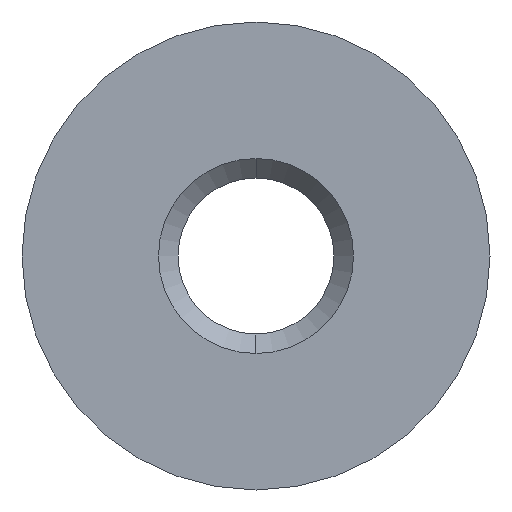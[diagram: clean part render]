
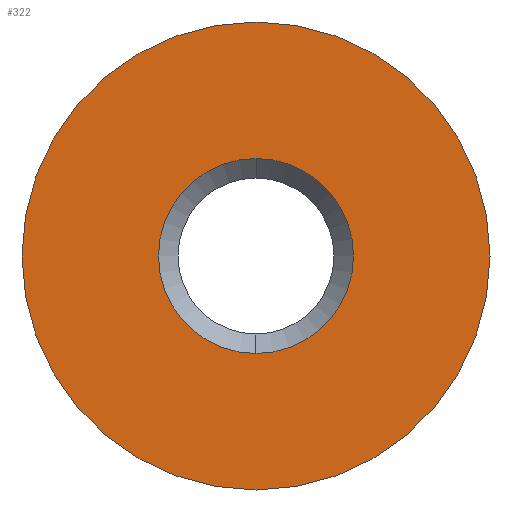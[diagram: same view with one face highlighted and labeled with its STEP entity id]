
A CAD part, left-side view. The second image highlights one B-rep face of the part: STEP entity #322.
In plain terms, the highlighted planar face has unit normal (-1, 0, 0).
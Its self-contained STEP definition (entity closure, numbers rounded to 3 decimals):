
#1 = ORIENTED_EDGE ( 'NONE', *, *, #465, .T. ) ;
#26 = FACE_BOUND ( 'NONE', #799, .T. ) ;
#30 = EDGE_CURVE ( 'NONE', #714, #199, #430, .T. ) ;
#37 = ORIENTED_EDGE ( 'NONE', *, *, #30, .T. ) ;
#54 = CARTESIAN_POINT ( 'NONE',  ( -2.46, 0., 0. ) ) ;
#75 = AXIS2_PLACEMENT_3D ( 'NONE', #54, #304, #368 ) ;
#96 = ORIENTED_EDGE ( 'NONE', *, *, #723, .T. ) ;
#123 = EDGE_CURVE ( 'NONE', #228, #445, #377, .T. ) ;
#124 = CARTESIAN_POINT ( 'NONE',  ( -2.46, 0., 0. ) ) ;
#131 = CIRCLE ( 'NONE', #524, 1. ) ;
#191 = CARTESIAN_POINT ( 'NONE',  ( -2.46, 0., 2.4 ) ) ;
#199 = VERTEX_POINT ( 'NONE', #191 ) ;
#201 = CARTESIAN_POINT ( 'NONE',  ( -2.46, 0., 0. ) ) ;
#228 = VERTEX_POINT ( 'NONE', #754 ) ;
#238 = AXIS2_PLACEMENT_3D ( 'NONE', #201, #565, #574 ) ;
#256 = DIRECTION ( 'NONE',  ( 1., 0., 0. ) ) ;
#302 = DIRECTION ( 'NONE',  ( -1., 0., 0. ) ) ;
#304 = DIRECTION ( 'NONE',  ( -1., 0., 0. ) ) ;
#322 = ADVANCED_FACE ( 'NONE', ( #26, #774 ), #519, .T. ) ;
#335 = DIRECTION ( 'NONE',  ( -1., 0., 0. ) ) ;
#351 = CARTESIAN_POINT ( 'NONE',  ( -2.46, 0., -2.4 ) ) ;
#368 = DIRECTION ( 'NONE',  ( 0., 0., 1. ) ) ;
#377 = CIRCLE ( 'NONE', #238, 1. ) ;
#430 = CIRCLE ( 'NONE', #75, 2.4 ) ;
#432 = CIRCLE ( 'NONE', #636, 2.4 ) ;
#445 = VERTEX_POINT ( 'NONE', #743 ) ;
#465 = EDGE_CURVE ( 'NONE', #445, #228, #131, .T. ) ;
#490 = AXIS2_PLACEMENT_3D ( 'NONE', #648, #335, #596 ) ;
#519 = PLANE ( 'NONE',  #490 ) ;
#524 = AXIS2_PLACEMENT_3D ( 'NONE', #124, #256, #620 ) ;
#549 = CARTESIAN_POINT ( 'NONE',  ( -2.46, 0., 0. ) ) ;
#565 = DIRECTION ( 'NONE',  ( 1., 0., 0. ) ) ;
#574 = DIRECTION ( 'NONE',  ( 0., 0., 1. ) ) ;
#576 = EDGE_LOOP ( 'NONE', ( #37, #96 ) ) ;
#594 = ORIENTED_EDGE ( 'NONE', *, *, #123, .T. ) ;
#596 = DIRECTION ( 'NONE',  ( 0., 0., 1. ) ) ;
#620 = DIRECTION ( 'NONE',  ( 0., 0., 1. ) ) ;
#636 = AXIS2_PLACEMENT_3D ( 'NONE', #549, #302, #793 ) ;
#648 = CARTESIAN_POINT ( 'NONE',  ( -2.46, 0., 0. ) ) ;
#714 = VERTEX_POINT ( 'NONE', #351 ) ;
#723 = EDGE_CURVE ( 'NONE', #199, #714, #432, .T. ) ;
#743 = CARTESIAN_POINT ( 'NONE',  ( -2.46, 0., 1. ) ) ;
#754 = CARTESIAN_POINT ( 'NONE',  ( -2.46, 0., -1. ) ) ;
#774 = FACE_OUTER_BOUND ( 'NONE', #576, .T. ) ;
#793 = DIRECTION ( 'NONE',  ( 0., 0., 1. ) ) ;
#799 = EDGE_LOOP ( 'NONE', ( #1, #594 ) ) ;
